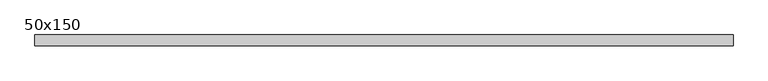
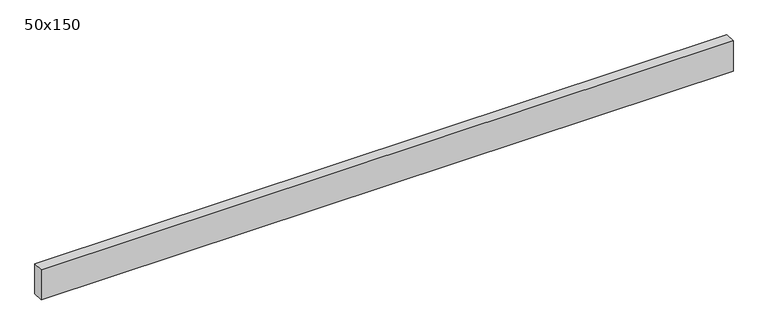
"""IFC4 building model written with IfcOpenShell, lengths in millimetres: beam geometry, Graded Timber : 50x150."""

import ifcopenshell
import ifcopenshell.guid

model = None  # the IFC model being written
_history = None  # IfcOwnerHistory: only IFC2X3 demands one
_inside = {}  # id of a spatial element -> (the spatial element, [elements in it])
_under = {}  # id of a project, library or spatial element -> (it, [spatial elements below it])
_declared = {}  # id of a project -> (the project, [libraries it declares])
_typed = {}  # id of a type object -> (the type object, [elements of that type])
_made_of = {}  # id of a material, layer set ... -> (it, [elements and type objects made of it])


def new_model(schema):
    """Start an empty IFC model of exactly this schema.

    Asked for "IFC4X3", IfcOpenShell would pick the latest addendum, in which some entities
    have other attributes; the version numbers below select the first issue.
    IFC2X3 requires an IfcOwnerHistory on every rooted entity: one is made here for all.
    """
    global model, _history
    if schema == "IFC4X3":
        model = ifcopenshell.file(schema_version=(4, 3, 0, 0))
    else:
        model = ifcopenshell.file(schema=schema)
    _inside.clear()
    _under.clear()
    _declared.clear()
    _typed.clear()
    _made_of.clear()
    _history = None
    if model.schema == "IFC2X3":
        org = make("IfcOrganization", Name="unknown")
        user = make(
            "IfcPersonAndOrganization",
            ThePerson=make("IfcPerson", FamilyName="unknown"),
            TheOrganization=org,
        )
        app = make(
            "IfcApplication",
            ApplicationDeveloper=org,
            Version="unknown",
            ApplicationFullName="unknown",
            ApplicationIdentifier="unknown",
        )
        _history = make(
            "IfcOwnerHistory",
            OwningUser=user,
            OwningApplication=app,
            ChangeAction="ADDED",
            CreationDate=0,
        )
    return model


def make(cls, **values):
    """One entity of the class cls with the attributes given. An attribute that is None is left unset."""
    return model.create_entity(
        cls, **{name: value for name, value in values.items() if value is not None}
    )


def rooted(cls, **values):
    """An entity with a GlobalId (a new one), such as an element, a storey or a relation."""
    return make(cls, GlobalId=ifcopenshell.guid.new(), OwnerHistory=_history, **values)


def si_unit(unit_type, name, prefix=None):
    """IfcSIUnit, for example si_unit("LENGTHUNIT", "METRE", prefix="MILLI")."""
    return make("IfcSIUnit", UnitType=unit_type, Prefix=prefix, Name=name)


def assignment(units):
    """IfcUnitAssignment: the units of a project."""
    return None if units is None else make("IfcUnitAssignment", Units=units)


def point(xyz):
    """IfcCartesianPoint."""
    return None if xyz is None else make("IfcCartesianPoint", Coordinates=xyz)


def direction(xyz):
    """IfcDirection."""
    return None if xyz is None else make("IfcDirection", DirectionRatios=xyz)


def frame(location, z_axis=None, x_axis=None):
    """IfcAxis2Placement3D, a coordinate frame: its origin and axes. An axis left out is left unset."""
    return make(
        "IfcAxis2Placement3D",
        Location=point(location),
        Axis=direction(z_axis),
        RefDirection=direction(x_axis),
    )


def origin():
    """The frame at (0, 0, 0) with its axes left unset."""
    return frame((0.0, 0.0, 0.0))


def place(relative_to, where):
    """IfcLocalPlacement: puts the frame where relative to a parent placement (None: the world)."""
    return make(
        "IfcLocalPlacement", PlacementRelTo=relative_to, RelativePlacement=where
    )


def context(
    kind, dimensions, precision=None, world=None, true_north=None, identifier=None
):
    """IfcGeometricRepresentationContext, for example the 3D "Model" context."""
    return make(
        "IfcGeometricRepresentationContext",
        ContextIdentifier=identifier,
        ContextType=kind,
        CoordinateSpaceDimension=dimensions,
        Precision=precision,
        WorldCoordinateSystem=world,
        TrueNorth=true_north,
    )


def project(units=None, contexts=None):
    """IfcProject with its units and contexts."""
    return rooted(
        "IfcProject",
        Name="project",
        RepresentationContexts=contexts,
        UnitsInContext=assignment(units),
    )


def spatial(cls, under=None, at=None, **own):
    """A site, building, storey or space (cls), placed at a placement, below another one or the project."""
    s = rooted(cls, ObjectPlacement=at, **own)
    if under is not None:
        _under.setdefault(under.id(), (under, []))[1].append(s)
    return s


def polyline(points):
    """IfcPolyline through the points."""
    return make("IfcPolyline", Points=[point(p) for p in points])


def outline(outer, holes=None, kind="AREA"):
    """IfcArbitraryClosedProfileDef: a profile drawn as a closed curve; with holes, ...WithVoids."""
    if holes is None:
        return make("IfcArbitraryClosedProfileDef", ProfileType=kind, OuterCurve=outer)
    return make(
        "IfcArbitraryProfileDefWithVoids",
        ProfileType=kind,
        OuterCurve=outer,
        InnerCurves=holes,
    )


def extrude(swept, where, along, depth):
    """IfcExtrudedAreaSolid: the profile swept, set in the frame where, extruded along a direction by depth."""
    return make(
        "IfcExtrudedAreaSolid",
        SweptArea=swept,
        Position=where,
        ExtrudedDirection=direction(along),
        Depth=depth,
    )


def shape(context_of_items, identifier, shape_type, items):
    """IfcShapeRepresentation: the items that make up one representation, for example the "Body"."""
    return make(
        "IfcShapeRepresentation",
        ContextOfItems=context_of_items,
        RepresentationIdentifier=identifier,
        RepresentationType=shape_type,
        Items=items,
    )


def source(mapping_origin, context_of_items, identifier, shape_type, items):
    """IfcRepresentationMap: a shape defined once, which mapped items show again and again."""
    return make(
        "IfcRepresentationMap",
        MappingOrigin=mapping_origin,
        MappedRepresentation=shape(context_of_items, identifier, shape_type, items),
    )


def transform(
    local_origin,
    x_axis=None,
    y_axis=None,
    z_axis=None,
    scale=None,
    scale2=None,
    scale3=None,
    uniform=True,
):
    """IfcCartesianTransformationOperator3D, or its non-uniform kind. x_axis, y_axis, z_axis: its Axis1, 2, 3."""
    if uniform:
        return make(
            "IfcCartesianTransformationOperator3D",
            Axis1=direction(x_axis),
            Axis2=direction(y_axis),
            LocalOrigin=point(local_origin),
            Scale=scale,
            Axis3=direction(z_axis),
        )
    return make(
        "IfcCartesianTransformationOperator3DnonUniform",
        Axis1=direction(x_axis),
        Axis2=direction(y_axis),
        LocalOrigin=point(local_origin),
        Scale=scale,
        Axis3=direction(z_axis),
        Scale2=scale2,
        Scale3=scale3,
    )


def mapped(mapping_source, mapping_target):
    """IfcMappedItem: shows the shape of a source again, moved by a transform."""
    return make(
        "IfcMappedItem", MappingSource=mapping_source, MappingTarget=mapping_target
    )


def made_of(thing, what):
    """Note that an element or type object is made of a material, layer set ...; save() writes the relation."""
    if what is not None:
        _made_of.setdefault(what.id(), (what, []))[1].append(thing)
    return thing


def element(
    cls,
    number,
    at=None,
    inside=None,
    cuts=None,
    type_object=None,
    material=None,
    context=None,
    identifier="Body",
    shape_type=None,
    held_by="IfcProductDefinitionShape",
    body=None,
    shapes=None,
    **own,
):
    """One element of the class cls, such as IfcWall. Its Tag is "e" and its number.

    at: its placement. inside: the storey or other place that contains it. cuts: it is an
    opening in that element (IfcRelVoidsElement). A single representation is given by context,
    identifier, shape_type and body (its items); several are given by shapes. held_by: the class
    of the entity that holds the representations. save() writes the other relations.
    """
    e = rooted(cls, Tag="e%d" % number, ObjectPlacement=at, **own)
    if body is not None:
        shapes = [shape(context, identifier, shape_type, body)]
    if shapes is not None:
        e.Representation = make(held_by, Representations=shapes)
    if inside is not None:
        _inside.setdefault(inside.id(), (inside, []))[1].append(e)
    if cuts is not None:
        rooted(
            "IfcRelVoidsElement", RelatingBuildingElement=cuts, RelatedOpeningElement=e
        )
    if type_object is not None:
        _typed.setdefault(type_object.id(), (type_object, []))[1].append(e)
    return made_of(e, material)


def aggregate(whole, parts):
    """IfcRelAggregates: a whole, such as a stair, and the parts it consists of."""
    return rooted("IfcRelAggregates", RelatingObject=whole, RelatedObjects=parts)


def save(model, path):
    """Write the relations noted so far, then the file.

    IfcRelAggregates (storeys below a building ...), IfcRelContainedInSpatialStructure (elements
    in a storey), IfcRelDefinesByType, IfcRelAssociatesMaterial and IfcRelDeclares: one each for
    every whole, place, type object, material and project.
    """
    for whole, parts in _under.values():
        aggregate(whole, parts)
    for where, things in _inside.values():
        rooted(
            "IfcRelContainedInSpatialStructure",
            RelatedElements=things,
            RelatingStructure=where,
        )
    for kind, things in _typed.values():
        rooted("IfcRelDefinesByType", RelatedObjects=things, RelatingType=kind)
    for what, things in _made_of.values():
        rooted("IfcRelAssociatesMaterial", RelatedObjects=things, RelatingMaterial=what)
    for by, libraries in _declared.values():
        rooted("IfcRelDeclares", RelatingContext=by, RelatedDefinitions=libraries)
    model.write(path)


def beam_50x150_e48ab039(model_context):
    return source(origin(), model_context, "Body", "SweptSolid", [
        extrude(outline(polyline([(1632.0, 25.0), (1632.0, -25.0), (-1632.0, -25.0), (-1632.0, 25.0), (1632.0, 25.0)])), frame((0.0, 0.0, -75.0), z_axis=(0.0, 0.0, 1.0), x_axis=(1.0, 0.0, 0.0)), (0.0, 0.0, 1.0), 150.0),
    ])


if __name__ == "__main__":
    model = new_model("IFC4")
    model_context = context("Model", 3, world=origin())
    ifc_project = project(units=[si_unit("LENGTHUNIT", "METRE", prefix="MILLI")], contexts=[model_context])
    site = spatial("IfcSite", under=ifc_project)
    building = spatial("IfcBuilding", under=site)
    placement = place(None, origin())
    beam_50x150_shape = beam_50x150_e48ab039(model_context)
    element("IfcBeam", 1, ObjectType="Graded Timber : 50x150", at=placement, inside=building, context=model_context, shape_type="MappedRepresentation", body=[
        mapped(beam_50x150_shape, transform((0.0, 0.0, 0.0), x_axis=(1.0, 0.0, 0.0), y_axis=(0.0, 1.0, 0.0), z_axis=(0.0, 0.0, 1.0))),
    ])
    save(model, "model.ifc")
